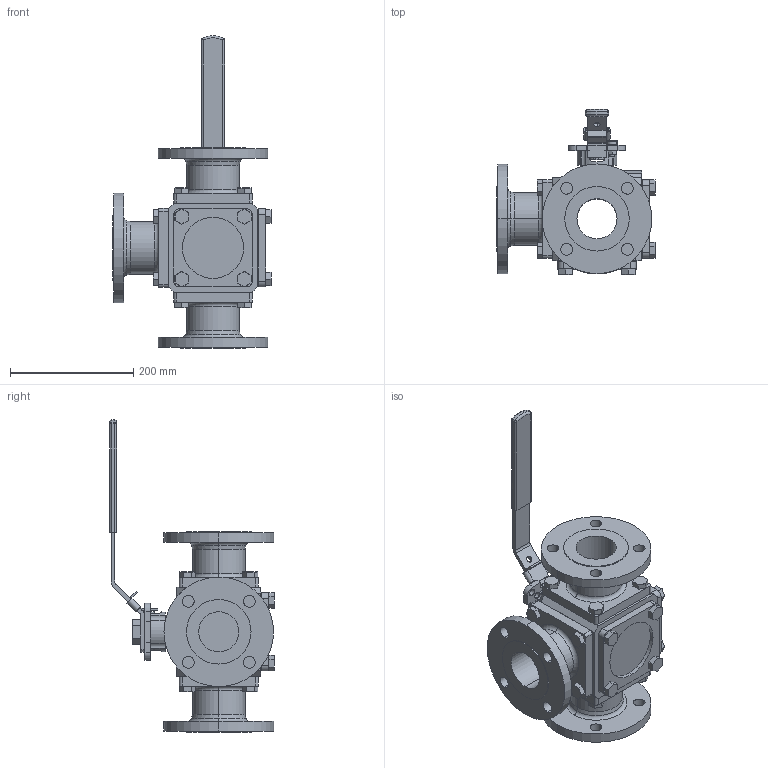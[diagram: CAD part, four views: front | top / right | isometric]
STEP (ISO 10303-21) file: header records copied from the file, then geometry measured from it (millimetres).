
FILE_DESCRIPTION (( 'STEP AP214' ), '1' );
FILE_NAME ('33-F1-0250-XXX.step', '2019-09-30T20:15:37', ( '' ), ( '' ), 'SwSTEP 2.0', 'SolidWorks 2019', '' );
FILE_SCHEMA (( 'AUTOMOTIVE_DESIGN' ));
Length unit declared in the file: millimetre
Products named in the file (2): 33-F1-0250-XXX
Bounding box: 256.97 x 267.14 x 506.26 mm (x, y, z)
Surface area: 556618 mm2 (no closed solid volume)
Topology: 0 solids, 35 shells, 570 faces, 1654 edges, 1094 vertices
Faces by surface type: plane 387, cylinder 144, torus 21, cone 10, bspline 4, sphere 4
Entity records: 25235 total; most frequent: CARTESIAN_POINT 3808, DIRECTION 3231, ORIENTED_EDGE 2764, EDGE_CURVE 1648, LINE 1121, VECTOR 1121, VERTEX_POINT 1094, AXIS2_PLACEMENT_3D 1055
